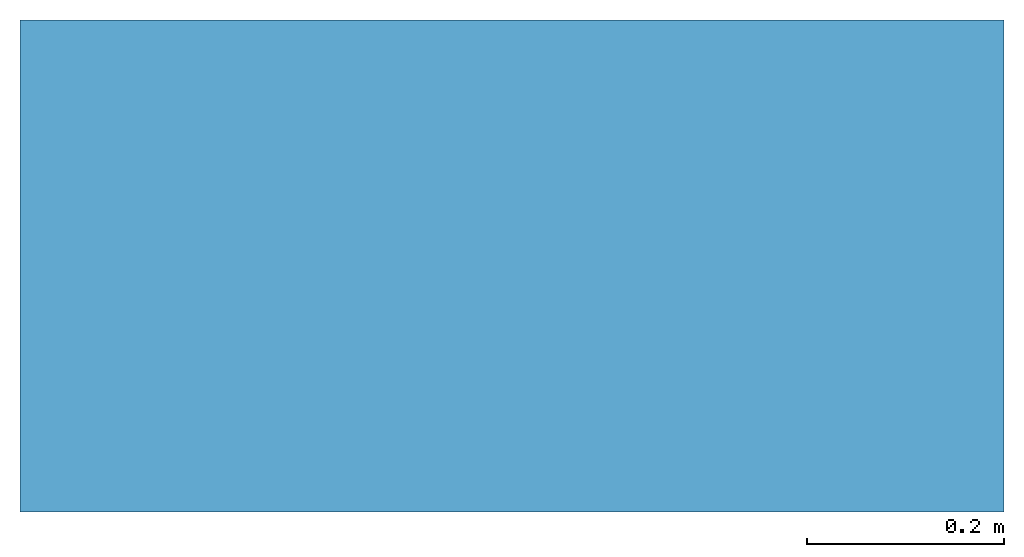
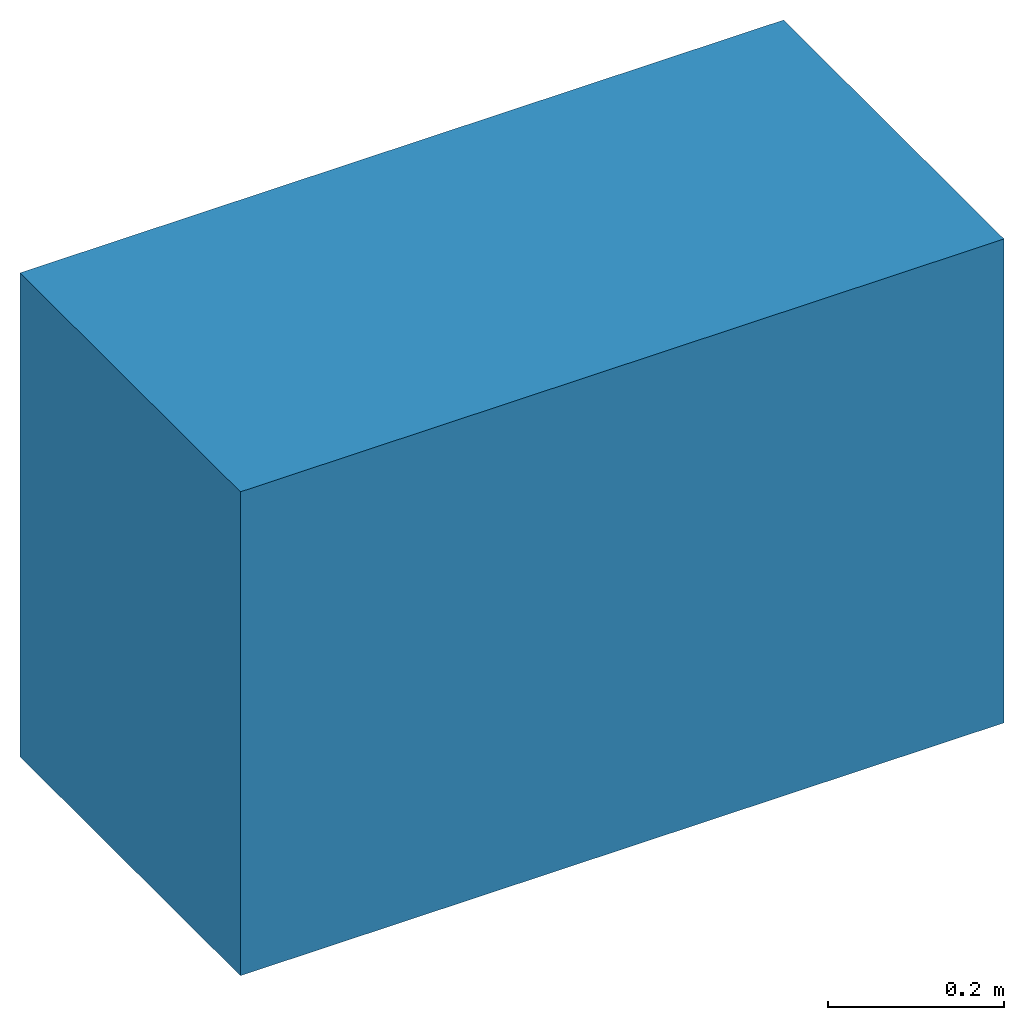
# One storey: 1 slab.
"""IFC4 building model written with IfcOpenShell, lengths in metres."""

from ifc_helpers import new_model, entity, si_unit, converted_unit, direction, frame, frame_2d, origin, place, context, subcontext, project, spatial, rectangle, extrude, material, type_object, element, save


model = new_model("IFC4")

# Units and contexts
model_context = context("Model", 3, precision=1e-05, world=origin(), true_north=direction((6.123031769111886e-17, 1.0)))
body_context = subcontext(model_context, "Body", "Model", "MODEL_VIEW")
ifc_project = project(units=[si_unit("LENGTHUNIT", "METRE"), converted_unit("PLANEANGLEUNIT", "DEGREE", entity("IfcPlaneAngleMeasure", 0.017453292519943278), si_unit("PLANEANGLEUNIT", "RADIAN"), dimensions=[0, 0, 0, 0, 0, 0, 0]), si_unit("AREAUNIT", "SQUARE_METRE")], contexts=[model_context])

# Site, building, storey
site_placement = place(None, origin())
site = spatial("IfcSite", under=ifc_project, at=site_placement, Name="Default", CompositionType="ELEMENT")
building_placement = place(site_placement, origin())
building = spatial("IfcBuilding", under=site, at=building_placement, CompositionType="ELEMENT")
storey_placement = place(building_placement, origin())
storey = spatial("IfcBuildingStorey", under=building, at=storey_placement, Name="DB_Bezugshoehe_max_Bahnsteigkante", CompositionType="ELEMENT", Elevation=0.0)

# Slab
ifc_material = material(Name="DB_Magerbeton", Category="DB_Beton")
slab_type = type_object("IfcSlabType", Name="DB_BSK_96_Fundament_Pass:DB_BSK_96_Fundament_Pass", PredefinedType="BASESLAB", material=ifc_material)
slab_placement = place(storey_placement, origin())
element("IfcSlab", 1, at=slab_placement, inside=storey, type_object=slab_type, Name="DB_BSK_96_Fundament_Pass:DB_BSK_96_Fundament_Pass:6313", ObjectType="DB_BSK_96_Fundament_Pass:DB_BSK_96_Fundament_Pass", PredefinedType="BASESLAB", context=body_context, shape_type="SweptSolid", body=[
    extrude(rectangle(XDim=0.9999999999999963, YDim=0.5000000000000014, at=frame_2d((4.996003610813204e-16, 0.0), x_axis=(1.0, 0.0))), frame((0.38938990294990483, 0.2500000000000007, -1.8549999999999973), z_axis=(0.0, 0.0, 1.0), x_axis=(-1.0, 0.0, 0.0)), (0.0, 0.0, 1.0), 0.11999999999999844),
    extrude(rectangle(XDim=0.9999999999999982, YDim=0.5000000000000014, at=frame_2d((4.996003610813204e-16, 0.0), x_axis=(1.0, 0.0))), frame((0.3893899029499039, 0.2500000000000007, -1.734999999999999), z_axis=(0.0, 0.0, 1.0), x_axis=(-1.0, 0.0, 0.0)), (0.0, 0.0, 1.0), 0.5500000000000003),
])

save(model, "model.ifc")
